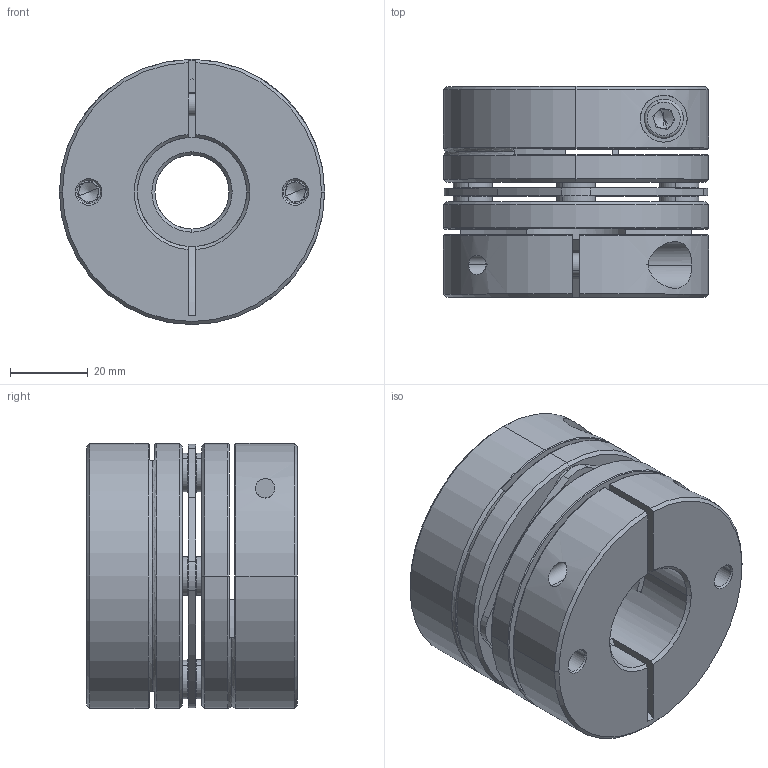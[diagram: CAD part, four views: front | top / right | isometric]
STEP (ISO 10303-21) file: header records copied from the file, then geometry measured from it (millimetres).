
FILE_DESCRIPTION (( 'STEP AP203' ), '1' );
FILE_NAME ('LD1-D68-19-28.STEP', '2021-10-26T07:56:03', ( '' ), ( '' ), 'SwSTEP 2.0', 'SolidWorks 2018', '' );
FILE_SCHEMA (( 'CONFIG_CONTROL_DESIGN' ));
Length unit declared in the file: millimetre
Products named in the file (2): LD1-D68-19-28; 錨璃101^LD1-D68
Assembly tree (1 placements, depth 2):
  LD1-D68-19-28
    錨璃101^LD1-D68
Bounding box: 68 x 54 x 68 mm (x, y, z)
Volume: 144834.6 mm3; surface area: 46269 mm2
Topology: 1 solids, 15 shells, 445 faces, 1059 edges, 650 vertices
Faces by surface type: cylinder 163, plane 138, cone 122, torus 22
Entity records: 13459 total; most frequent: CARTESIAN_POINT 2611, DIRECTION 2433, ORIENTED_EDGE 2086, EDGE_CURVE 1043, AXIS2_PLACEMENT_3D 988, VERTEX_POINT 650, CIRCLE 539, EDGE_LOOP 525
